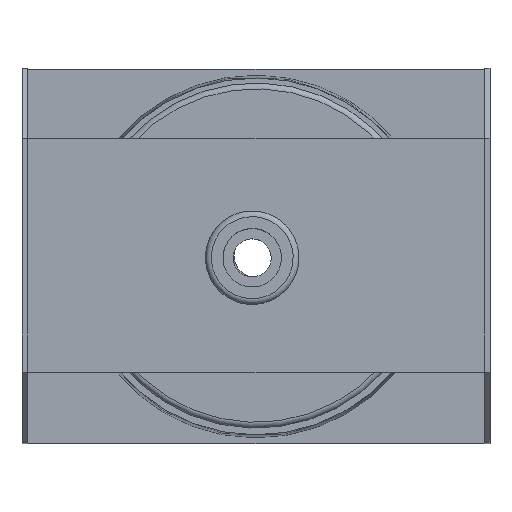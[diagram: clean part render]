
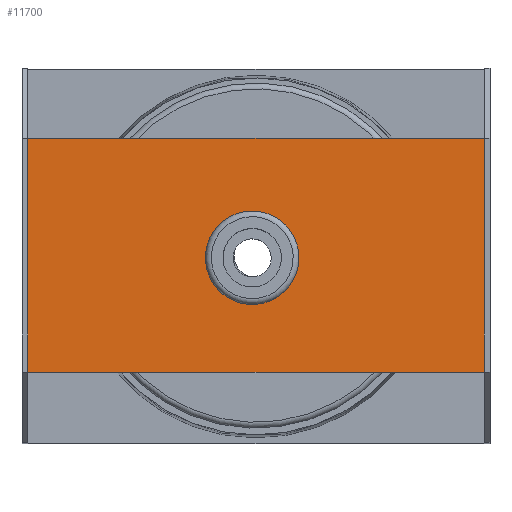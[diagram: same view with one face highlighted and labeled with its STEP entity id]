
A CAD part, top view. The second image highlights one B-rep face of the part: STEP entity #11700.
In plain terms, the highlighted planar face has unit normal (0, 0, 1).
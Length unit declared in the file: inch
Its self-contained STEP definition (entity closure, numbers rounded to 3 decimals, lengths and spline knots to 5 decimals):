
#236=FACE_BOUND('',#1799,.T.);
#702=PLANE('',#12341);
#1154=FACE_OUTER_BOUND('',#1798,.T.);
#1798=EDGE_LOOP('',(#7958,#7959,#7960,#7961));
#1799=EDGE_LOOP('',(#7962));
#2566=LINE('',#27696,#3748);
#2568=LINE('',#27700,#3750);
#2569=LINE('',#27702,#3751);
#2570=LINE('',#27703,#3752);
#3748=VECTOR('',#13032,9.75);
#3750=VECTOR('',#13036,5.);
#3751=VECTOR('',#13037,9.75);
#3752=VECTOR('',#13038,5.);
#4858=CIRCLE('',#12330,0.75);
#5026=VERTEX_POINT('',#27657);
#5039=VERTEX_POINT('',#27693);
#5040=VERTEX_POINT('',#27695);
#5041=VERTEX_POINT('',#27699);
#5042=VERTEX_POINT('',#27701);
#6174=EDGE_CURVE('',#5026,#5026,#4858,.T.);
#6192=EDGE_CURVE('',#5040,#5039,#2566,.T.);
#6194=EDGE_CURVE('',#5039,#5041,#2568,.T.);
#6195=EDGE_CURVE('',#5042,#5041,#2569,.T.);
#6196=EDGE_CURVE('',#5040,#5042,#2570,.T.);
#7958=ORIENTED_EDGE('',*,*,#6194,.T.);
#7959=ORIENTED_EDGE('',*,*,#6195,.F.);
#7960=ORIENTED_EDGE('',*,*,#6196,.F.);
#7961=ORIENTED_EDGE('',*,*,#6192,.T.);
#7962=ORIENTED_EDGE('',*,*,#6174,.T.);
#11700=ADVANCED_FACE('',(#1154,#236),#702,.T.);
#12330=AXIS2_PLACEMENT_3D('',#27658,#12997,#12998);
#12341=AXIS2_PLACEMENT_3D('',#27698,#13034,#13035);
#12997=DIRECTION('center_axis',(0.,0.,-1.));
#12998=DIRECTION('ref_axis',(-1.,0.,0.));
#13032=DIRECTION('',(-1.,0.,0.));
#13034=DIRECTION('center_axis',(0.,0.,1.));
#13035=DIRECTION('ref_axis',(-1.,0.,0.));
#13036=DIRECTION('',(0.,-1.,0.));
#13037=DIRECTION('',(-1.,0.,0.));
#13038=DIRECTION('',(0.,-1.,0.));
#27657=CARTESIAN_POINT('',(-0.75,0.,0.));
#27658=CARTESIAN_POINT('Origin',(0.,0.,0.));
#27693=CARTESIAN_POINT('',(-4.875,2.5,0.));
#27695=CARTESIAN_POINT('',(4.875,2.5,0.));
#27696=CARTESIAN_POINT('',(4.875,2.5,0.));
#27698=CARTESIAN_POINT('Origin',(4.875,2.5,0.));
#27699=CARTESIAN_POINT('',(-4.875,-2.5,0.));
#27700=CARTESIAN_POINT('',(-4.875,1.25,0.));
#27701=CARTESIAN_POINT('',(4.875,-2.5,0.));
#27702=CARTESIAN_POINT('',(4.875,-2.5,0.));
#27703=CARTESIAN_POINT('',(4.875,1.25,0.));
